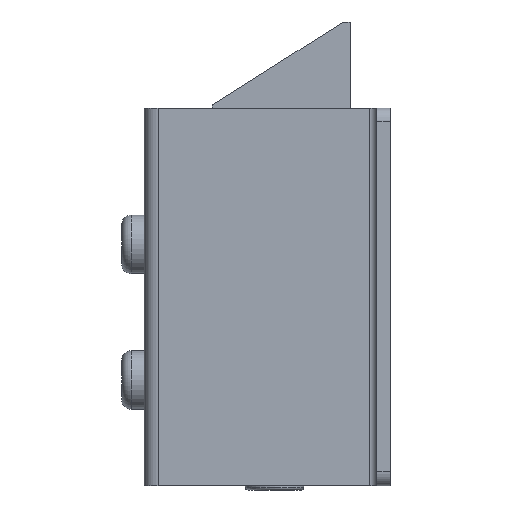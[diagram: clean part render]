
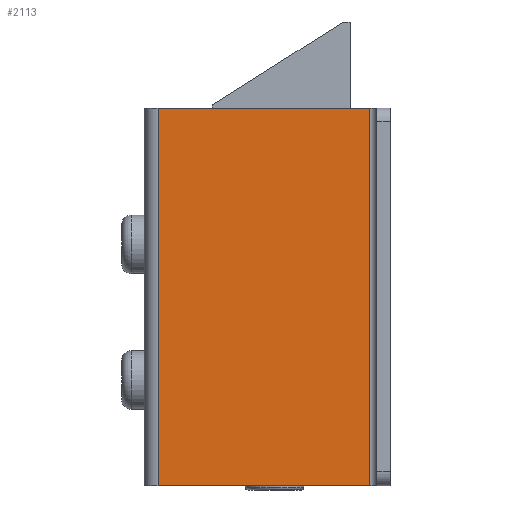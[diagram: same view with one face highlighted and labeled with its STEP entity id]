
A CAD part, left-side view. The second image highlights one B-rep face of the part: STEP entity #2113.
In plain terms, the highlighted planar face has unit normal (-1, 0, 0).
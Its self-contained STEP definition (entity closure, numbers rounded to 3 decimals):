
#127=LINE('',#3357,#330);
#151=LINE('',#3441,#354);
#158=LINE('',#3463,#361);
#159=LINE('',#3465,#362);
#330=VECTOR('',#2692,10.);
#354=VECTOR('',#2764,10.);
#361=VECTOR('',#2789,10.);
#362=VECTOR('',#2792,10.);
#556=FACE_OUTER_BOUND('',#691,.T.);
#691=EDGE_LOOP('',(#1652,#1653,#1654,#1655));
#949=VERTEX_POINT('',#3354);
#950=VERTEX_POINT('',#3356);
#985=VERTEX_POINT('',#3438);
#986=VERTEX_POINT('',#3440);
#1178=EDGE_CURVE('',#949,#950,#127,.T.);
#1220=EDGE_CURVE('',#986,#985,#151,.T.);
#1232=EDGE_CURVE('',#986,#949,#158,.T.);
#1233=EDGE_CURVE('',#950,#985,#159,.T.);
#1652=ORIENTED_EDGE('',*,*,#1232,.F.);
#1653=ORIENTED_EDGE('',*,*,#1220,.T.);
#1654=ORIENTED_EDGE('',*,*,#1233,.F.);
#1655=ORIENTED_EDGE('',*,*,#1178,.F.);
#2016=PLANE('',#2340);
#2113=ADVANCED_FACE('',(#556),#2016,.T.);
#2340=AXIS2_PLACEMENT_3D('',#3464,#2790,#2791);
#2692=DIRECTION('',(0.,1.,0.));
#2764=DIRECTION('',(0.,1.,0.));
#2789=DIRECTION('',(0.,0.,-1.));
#2790=DIRECTION('center_axis',(-1.,0.,0.));
#2791=DIRECTION('ref_axis',(0.,0.,1.));
#2792=DIRECTION('',(0.,0.,1.));
#3354=CARTESIAN_POINT('',(-7.595,1.5,-13.6));
#3356=CARTESIAN_POINT('',(-7.595,16.73,-13.6));
#3357=CARTESIAN_POINT('',(-7.595,0.,-13.6));
#3438=CARTESIAN_POINT('',(-7.595,16.73,13.6));
#3440=CARTESIAN_POINT('',(-7.595,1.5,13.6));
#3441=CARTESIAN_POINT('',(-7.595,0.,13.6));
#3463=CARTESIAN_POINT('',(-7.595,1.5,-6.8));
#3464=CARTESIAN_POINT('Origin',(-7.595,0.,-13.6));
#3465=CARTESIAN_POINT('',(-7.595,16.73,-6.8));
